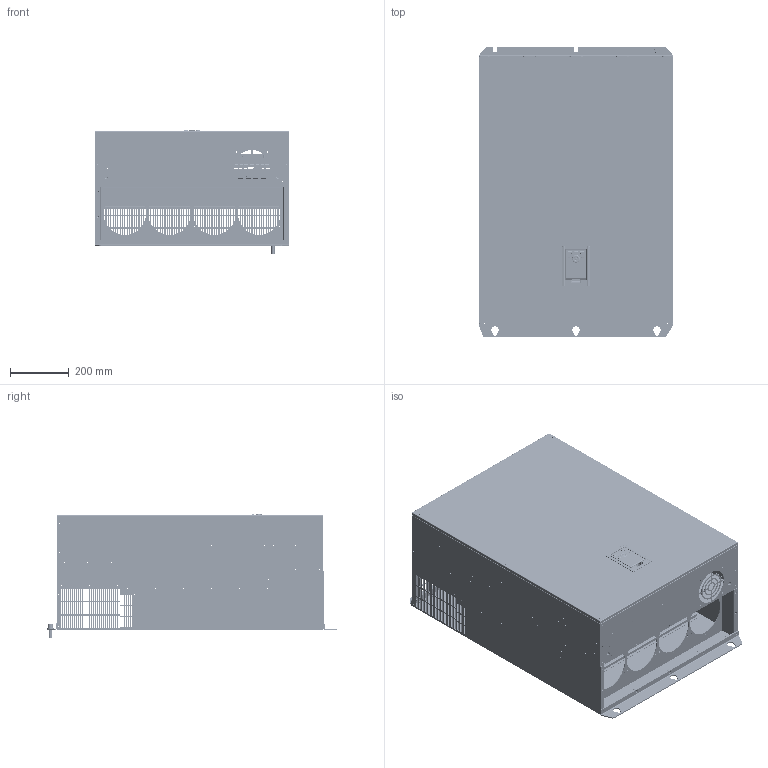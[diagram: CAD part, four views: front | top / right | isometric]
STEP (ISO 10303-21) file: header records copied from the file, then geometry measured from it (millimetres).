
FILE_DESCRIPTION (( 'STEP AP214' ), '1' );
FILE_NAME ('H120-315-450kW.STEP', '2024-03-05T09:09:28', ( '微软用户' ), ( '微软中国' ), 'SwSTEP 2.0', 'SolidWorks 2018', '' );
FILE_SCHEMA (( 'AUTOMOTIVE_DESIGN' ));
Length unit declared in the file: millimetre
Products named in the file (87): H404-JX-01- -DPRT-20231130.; 勤脣え1; 菁醱樓Ч踐; 寡蝶-led-2-20231130; 底座固定板装配体-20220913; H404-SG-20231130; 控制模块安装支架2装配体-20231130; 阨儒芛-耀撿-led-2-20231130; 菁釱嘐隅啣1-20220913; H120-315-450kW; 输入端子板装配体-; 控制模块安装支架2; 俋褲1-led-2-20231130; 結啣啣-20231130; 输入端子板-; 控制模块安装支架装配体; 瑩攫迖2; 瑞耋啣蚾饜极-20231130; 绝缘柱支架装配体-20231130; 控制模块安装支架; 机箱装总装配体-水冷-HC- -dasm-20231130.; M8X10腔蹟隊揤穩-20220913;  M6X12腔蹟譫翐; 蛹憤崨盄鎢-20231130; M12X35腔蹟隊; 瑞耋啣-20231130.; 橈埽翐盓殤; 崨盄鎢沭; 驱动板维修盖板-20231130; H404-JX-DFB蚾饜极- -DASM-20231130.; 风扇安装板装配体-20231130; 输入端子板支架装配体-; 控制模块安装板装配体; M6揤穩蹟譫; m8揤穩櫅譫; 输入端子板支架-; 樓Ч踐2-20231130; H404-JX-DFB- -DPRT-20231130.; 瑞圮假蚾啣-20231130; 绝缘柱固定支架装配体-20231130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
Assembly tree (286 placements, depth 7):
  H120-315-450kW
    机箱装总装配体-水冷-HC- -dasm-20231130.
      儂眊翋极20231130.
        H404-JX-01- -DASM-20231130.
          翋眊极- -dasm-20231130.
            H404-JX-01- -DPRT-20231130.
            m5揤穩櫅譫  x3
            M4压铆螺母_M4压铆螺母  x8
          电路板安装板支架装配体- -DASM-20231130.  x2
            电路板安装板支架-20200821- -DPRT-20231130.
            M4压铆螺母- -DPRT-20231130._M4压铆螺母
          遮挡板支架装配体-20231130  x2
            殑結啣盓殤
            M4压铆螺母_M4压铆螺母
          绝缘柱固定支架装配体-20231130  x2
            橈埽翐嘐隅盓殤
            M4压铆螺母_M4压铆螺母
          输入端子板支架装配体-  x2
            输入端子板支架-
            M4压铆螺母_M4压铆螺母
          崨盄鎢沭  x2
          蛹憤崨盄鎢-20231130  x2
          控制模块安装支架装配体
            控制模块安装支架
            M4压铆螺母_M4压铆螺母  x3
          控制模块安装支架2装配体-20231130
            控制模块安装支架2
            M4压铆螺母_M4压铆螺母  x2
          菁醱樓Ч踐  x3
          菁窒樓Ч踐2  x2
        H404-JX-02- -DASM-20231130.
          輛盄傷蚾饜极- -dasm-20231130.
            H404-JX-02- -DPRT-20231130.
            裂遠菜啣蚾饜极- -DASM-20231130.  x2
              裂遠菜啣- -DPRT-20231130.
              m12揤穩櫅譫-20231130.H164314DPRT- -DPRT
          苤崨盄鎢-20231130
          崨盄鎢2-20230828
        H404-JX-DFB蚾饜极- -DASM-20231130.
          H404-JX-DFB- -DPRT-20231130.
          裂遠菜啣蚾饜极- -DASM-20231130.  x2
            裂遠菜啣- -DPRT-20231130.
            m12揤穩櫅譫-20231130.H164314DPRT- -DPRT
          M6揤穩蹟譫  x11
          M4压铆螺母_M4压铆螺母  x3
        瑞耋啣蚾饜极-20231130
          瑞耋啣-20231130.
          M4压铆螺母- -DPRT-20231130._M4压铆螺母  x30
          m5揤穩櫅譫  x17
          M8X10腔蹟隊揤穩-20220913  x12
        結啣啣-20231130
        底座固定板装配体-20220913
          菁釱嘐隅啣1-20220913
          M4压铆螺母_M4压铆螺母  x4
      电路板安装板装配体- -DASM-20231130.
        萇繚啣假蚾啣- -DPRT-20231130.
         m4x12瓣謂揤穩蹟譫翐  x8
        M4压铆螺母_M4压铆螺母
        M8X10腔蹟隊揤穩-20220913  x2
      殑結啣蚾饜极-20231130
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Bounding box: 660 x 987.5 x 418.2 mm (x, y, z)
Volume: 6323231.4 mm3; surface area: 8265142.5 mm2
Topology: 274 solids, 274 shells, 13682 faces, 36280 edges, 23796 vertices
Faces by surface type: plane 8584, cylinder 4162, cone 640, bspline 139, torus 108, sphere 49
Entity records: 275376 total; most frequent: CARTESIAN_POINT 56028, ORIENTED_EDGE 44080, DIRECTION 43553, EDGE_CURVE 22040, LINE 15607, VECTOR 15607, VERTEX_POINT 14514, AXIS2_PLACEMENT_3D 13973
